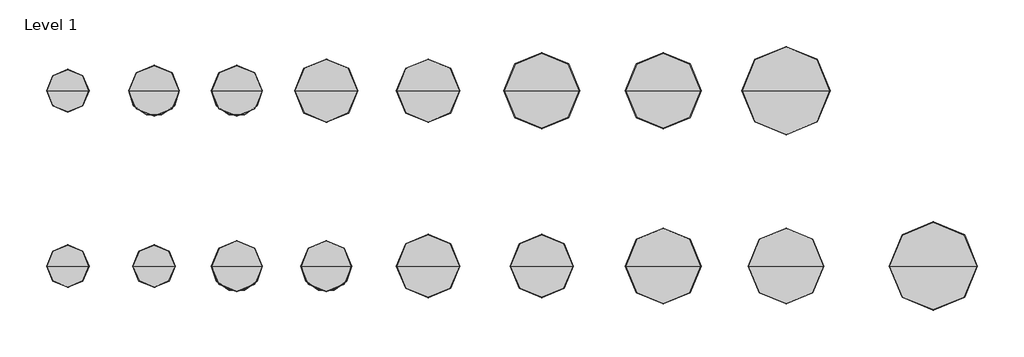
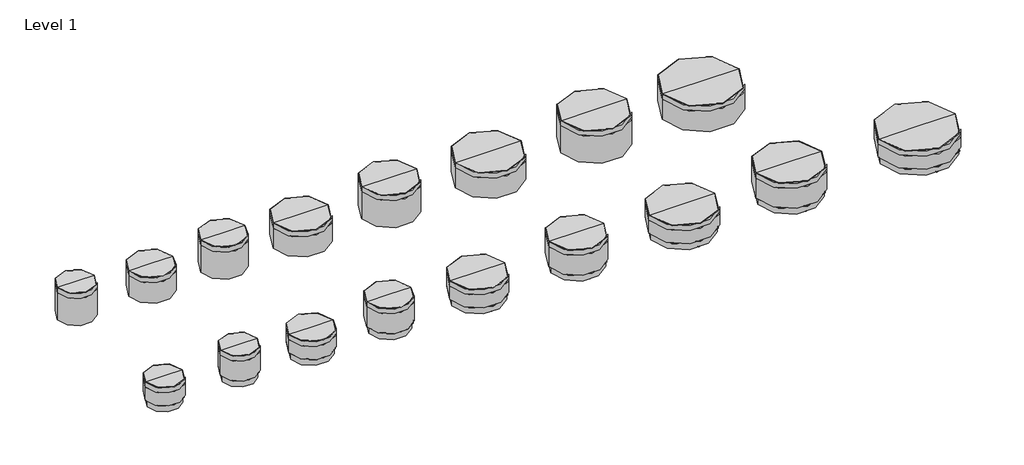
# One storey: 17 furniture elements.
"""IFC4 building model written with IfcOpenShell, lengths in millimetres."""

from ifc_helpers import new_model, si_unit, origin, place, context, project, spatial, transform, mapped, element, save
from components import furniture_b5dab5b0, furniture_12132006, furniture_8fce106f, furniture_0c88c4e6, furniture_2e1be484, furniture_1ac0fee3, furniture_c60440c1, furniture_4b39c1f1, furniture_cdd20899, furniture_5d18ae13, furniture_4d828981, furniture_1fc6e2c9, furniture_904588d5, furniture_9ab48ab8, furniture_6be4e087, furniture_5234770c, furniture_038770ac

model = new_model("IFC4")

# Units and contexts
model_context = context("Model", 3, world=origin())
ifc_project = project(units=[si_unit("LENGTHUNIT", "METRE", prefix="MILLI")], contexts=[model_context])

# Site, building, storey
site = spatial("IfcSite", under=ifc_project)
building = spatial("IfcBuilding", under=site)
storey = spatial("IfcBuildingStorey", under=building, Name="Level 1", Elevation=0.0)

# Furniture
placement = place(None, origin())
furniture_shape = furniture_b5dab5b0(model_context)
element("IfcFurniture", 1, ObjectType="StanceHC-Drum_Table : 3-DRT20D20-U", at=placement, inside=storey, context=model_context, shape_type="MappedRepresentation", body=[
    mapped(furniture_shape, transform((342.3545247, 3288.9448655, 0.0), x_axis=(1.0, 0.0, 0.0), y_axis=(0.0, 1.0, 0.0), z_axis=(0.0, 0.0, 1.0))),
])
furniture_2_shape = furniture_12132006(model_context)
element("IfcFurniture", 2, ObjectType="StanceHC-Drum_Table : 3-DRT24D16-U", at=placement, inside=storey, context=model_context, shape_type="MappedRepresentation", body=[
    mapped(furniture_2_shape, transform((1395.8063735, 3288.9448655, 0.0), x_axis=(1.0, 0.0, 0.0), y_axis=(0.0, 1.0, 0.0), z_axis=(0.0, 0.0, 1.0))),
])
furniture_3_shape = furniture_8fce106f(model_context)
element("IfcFurniture", 3, ObjectType="StanceHC-Drum_Table : 3-DRT24D20-U", at=placement, inside=storey, context=model_context, shape_type="MappedRepresentation", body=[
    mapped(furniture_3_shape, transform((2408.3462269, 3288.9448655, 0.0), x_axis=(1.0, 0.0, 0.0), y_axis=(0.0, 1.0, 0.0), z_axis=(0.0, 0.0, 1.0))),
])
furniture_4_shape = furniture_0c88c4e6(model_context)
element("IfcFurniture", 4, ObjectType="StanceHC-Drum_Table : 3-DRT30D16-U", at=placement, inside=storey, context=model_context, shape_type="MappedRepresentation", body=[
    mapped(furniture_4_shape, transform((3500.9544506, 3288.9448655, 0.0), x_axis=(1.0, 0.0, 0.0), y_axis=(0.0, 1.0, 0.0), z_axis=(0.0, 0.0, 1.0))),
])
furniture_5_shape = furniture_2e1be484(model_context)
element("IfcFurniture", 5, ObjectType="StanceHC-Drum_Table : 3-DRT30D20-U", at=placement, inside=storey, context=model_context, shape_type="MappedRepresentation", body=[
    mapped(furniture_5_shape, transform((4746.3965538, 3288.9448655, 0.0), x_axis=(1.0, 0.0, 0.0), y_axis=(0.0, 1.0, 0.0), z_axis=(0.0, 0.0, 1.0))),
])
furniture_6_shape = furniture_1ac0fee3(model_context)
element("IfcFurniture", 6, ObjectType="StanceHC-Drum_Table : 3-DRT36D16-U", at=placement, inside=storey, context=model_context, shape_type="MappedRepresentation", body=[
    mapped(furniture_6_shape, transform((6135.3158892, 3288.9448655, 0.0), x_axis=(1.0, 0.0, 0.0), y_axis=(0.0, 1.0, 0.0), z_axis=(0.0, 0.0, 1.0))),
])
furniture_7_shape = furniture_c60440c1(model_context)
element("IfcFurniture", 7, ObjectType="StanceHC-Drum_Table : 3-DRT36D20-U", at=placement, inside=storey, context=model_context, shape_type="MappedRepresentation", body=[
    mapped(furniture_7_shape, transform((7620.1785878, 3288.9448655, 0.0), x_axis=(1.0, 0.0, 0.0), y_axis=(0.0, 1.0, 0.0), z_axis=(0.0, 0.0, 1.0))),
])
furniture_8_shape = furniture_4b39c1f1(model_context)
element("IfcFurniture", 8, ObjectType="StanceHC-Drum_Table : 3-DRT42D16-U", at=placement, inside=storey, context=model_context, shape_type="MappedRepresentation", body=[
    mapped(furniture_8_shape, transform((9120.8731503, 3288.9448655, 0.0), x_axis=(1.0, 0.0, 0.0), y_axis=(0.0, 1.0, 0.0), z_axis=(0.0, 0.0, 1.0))),
])
furniture_9_shape = furniture_cdd20899(model_context)
element("IfcFurniture", 9, ObjectType="StanceHC-Drum_Table-Plinth_Base : 3-DRT20D16-U-PL", at=placement, inside=storey, context=model_context, shape_type="MappedRepresentation", body=[
    mapped(furniture_9_shape, transform((342.3545247, 1145.3720487, 0.0), x_axis=(1.0, 0.0, 0.0), y_axis=(0.0, 1.0, 0.0), z_axis=(0.0, 0.0, 1.0))),
])
furniture_10_shape = furniture_5d18ae13(model_context)
element("IfcFurniture", 10, ObjectType="StanceHC-Drum_Table-Plinth_Base : 3-DRT20D20-U-PL", at=placement, inside=storey, context=model_context, shape_type="MappedRepresentation", body=[
    mapped(furniture_10_shape, transform((1395.8063735, 1145.3720487, 0.0), x_axis=(1.0, 0.0, 0.0), y_axis=(0.0, 1.0, 0.0), z_axis=(0.0, 0.0, 1.0))),
])
furniture_11_shape = furniture_4d828981(model_context)
element("IfcFurniture", 11, ObjectType="StanceHC-Drum_Table-Plinth_Base : 3-DRT24D16-U-PL", at=placement, inside=storey, context=model_context, shape_type="MappedRepresentation", body=[
    mapped(furniture_11_shape, transform((2408.3462269, 1145.3720487, 0.0), x_axis=(1.0, 0.0, 0.0), y_axis=(0.0, 1.0, 0.0), z_axis=(0.0, 0.0, 1.0))),
])
furniture_12_shape = furniture_1fc6e2c9(model_context)
element("IfcFurniture", 12, ObjectType="StanceHC-Drum_Table-Plinth_Base : 3-DRT24D20-U-PL", at=placement, inside=storey, context=model_context, shape_type="MappedRepresentation", body=[
    mapped(furniture_12_shape, transform((3500.9544506, 1145.3720487, 0.0), x_axis=(1.0, 0.0, 0.0), y_axis=(0.0, 1.0, 0.0), z_axis=(0.0, 0.0, 1.0))),
])
furniture_13_shape = furniture_904588d5(model_context)
element("IfcFurniture", 13, ObjectType="StanceHC-Drum_Table-Plinth_Base : 3-DRT30D16-U-PL", at=placement, inside=storey, context=model_context, shape_type="MappedRepresentation", body=[
    mapped(furniture_13_shape, transform((4746.3965538, 1145.3720487, 0.0), x_axis=(1.0, 0.0, 0.0), y_axis=(0.0, 1.0, 0.0), z_axis=(0.0, 0.0, 1.0))),
])
furniture_14_shape = furniture_9ab48ab8(model_context)
element("IfcFurniture", 14, ObjectType="StanceHC-Drum_Table-Plinth_Base : 3-DRT30D20-U-PL", at=placement, inside=storey, context=model_context, shape_type="MappedRepresentation", body=[
    mapped(furniture_14_shape, transform((6135.3158892, 1145.3720487, 0.0), x_axis=(1.0, 0.0, 0.0), y_axis=(0.0, 1.0, 0.0), z_axis=(0.0, 0.0, 1.0))),
])
furniture_15_shape = furniture_6be4e087(model_context)
element("IfcFurniture", 15, ObjectType="StanceHC-Drum_Table-Plinth_Base : 3-DRT36D16-U-PL", at=placement, inside=storey, context=model_context, shape_type="MappedRepresentation", body=[
    mapped(furniture_15_shape, transform((7620.1785878, 1145.3720487, 0.0), x_axis=(1.0, 0.0, 0.0), y_axis=(0.0, 1.0, 0.0), z_axis=(0.0, 0.0, 1.0))),
])
furniture_16_shape = furniture_5234770c(model_context)
element("IfcFurniture", 16, ObjectType="StanceHC-Drum_Table-Plinth_Base : 3-DRT36D20-U-PL", at=placement, inside=storey, context=model_context, shape_type="MappedRepresentation", body=[
    mapped(furniture_16_shape, transform((9120.8731503, 1145.3720487, 0.0), x_axis=(1.0, 0.0, 0.0), y_axis=(0.0, 1.0, 0.0), z_axis=(0.0, 0.0, 1.0))),
])
furniture_17_shape = furniture_038770ac(model_context)
element("IfcFurniture", 17, ObjectType="StanceHC-Drum_Table-Plinth_Base : 3-DRT42D16U-PL", at=placement, inside=storey, context=model_context, shape_type="MappedRepresentation", body=[
    mapped(furniture_17_shape, transform((10921.3578505, 1145.3720487, 0.0), x_axis=(1.0, 0.0, 0.0), y_axis=(0.0, 1.0, 0.0), z_axis=(0.0, 0.0, 1.0))),
])

save(model, "model.ifc")
